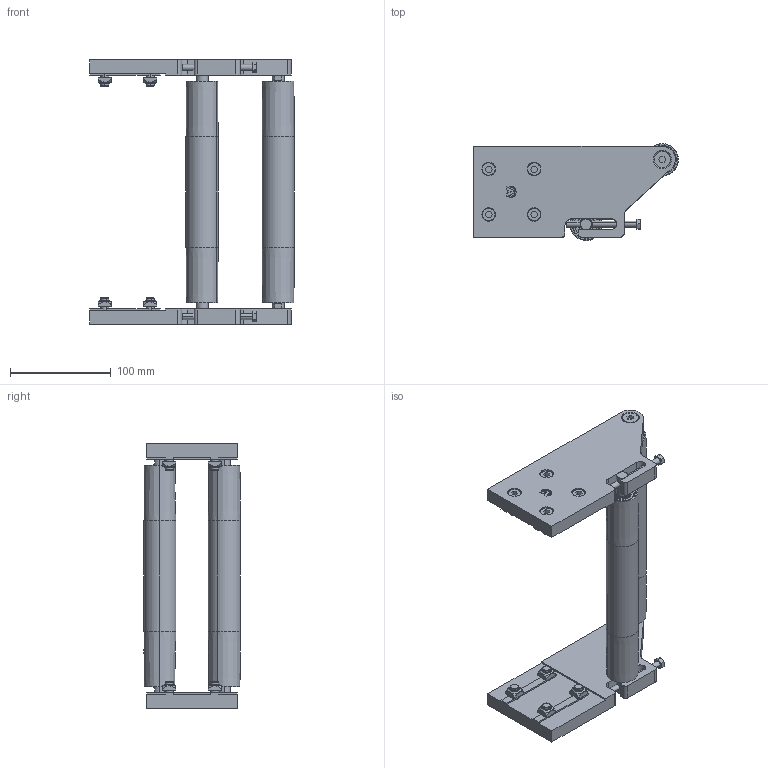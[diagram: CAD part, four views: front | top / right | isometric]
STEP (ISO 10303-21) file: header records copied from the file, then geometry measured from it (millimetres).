
FILE_DESCRIPTION (( 'STEP AP203' ), '1' );
FILE_NAME ('084.095.KP.200.STEP', '2019-07-30T07:54:19', ( '' ), ( '' ), 'SwSTEP 2.0', 'SolidWorks 2018', '' );
FILE_SCHEMA (( 'CONFIG_CONTROL_DESIGN' ));
Length unit declared in the file: millimetre
Products named in the file (12): VITI TE UNI 5739_M6x70 UNI 5739; VITI TSEI UNI 5933_M8x30 UNI 5933; 084.827.001; 084.827.003; 084.802.036; 084.827.002; 084.301.000 VITI ALUSIC_084.301.003; 456.015.101_456.015.101 SX; 12 UNI 7435_PreviewCfg; 084.302.000 DADI ALUSIC 13x13-1_084.302.004; 456.015.101_456.015.101 DX; 084.095.KP.200
Assembly tree (34 placements, depth 2):
  084.095.KP.200
    084.827.003
    084.827.001  x2
    456.015.101_456.015.101 SX
    456.015.101_456.015.101 DX
    084.827.002
    084.802.036  x4
    084.301.000 VITI ALUSIC_084.301.003  x8
    084.302.000 DADI ALUSIC 13x13-1_084.302.004  x8
    VITI TE UNI 5739_M6x70 UNI 5739  x2
    VITI TSEI UNI 5933_M8x30 UNI 5933  x2
    12 UNI 7435_PreviewCfg  x4
Bounding box: 203 x 96.06 x 262 mm (x, y, z)
Volume: 645734.4 mm3; surface area: 218718.3 mm2
Topology: 38 solids, 42 shells, 1000 faces, 2430 edges, 1554 vertices
Faces by surface type: plane 347, cylinder 334, torus 136, bspline 99, cone 84
Entity records: 16858 total; most frequent: CARTESIAN_POINT 4146, ORIENTED_EDGE 2296, DIRECTION 2170, EDGE_CURVE 1148, AXIS2_PLACEMENT_3D 810, VERTEX_POINT 744, LINE 550, VECTOR 550
